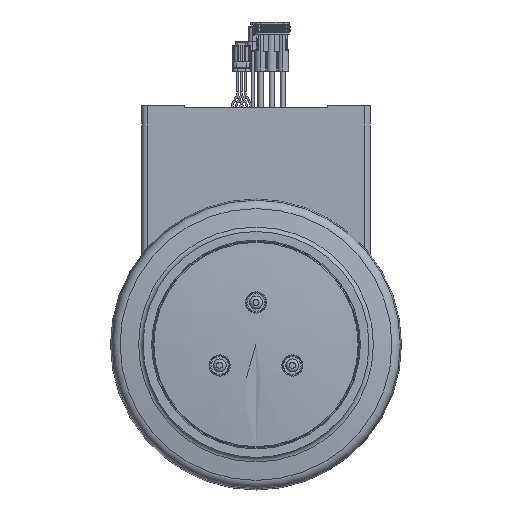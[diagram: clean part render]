
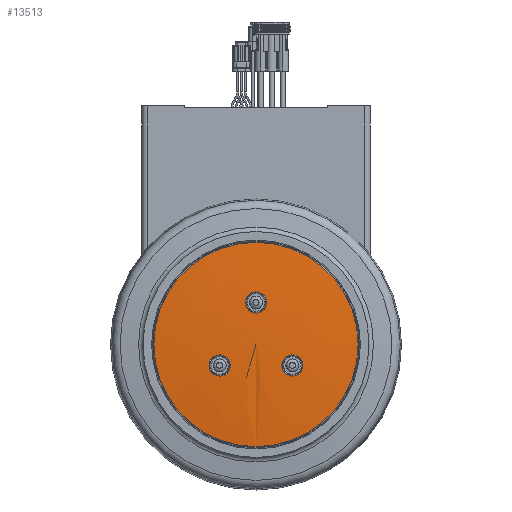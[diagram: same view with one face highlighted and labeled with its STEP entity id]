
A CAD part, front view. The second image highlights one B-rep face of the part: STEP entity #13513.
In plain terms, the highlighted free-form (B-spline) face has degree [3, 3] with [4, 7] control points.
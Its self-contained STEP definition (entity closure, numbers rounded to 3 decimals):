
#123=VERTEX_LOOP('',#33699);
#1325=(
BOUNDED_SURFACE()
B_SPLINE_SURFACE(3,3,((#91559,#91560,#91561,#91562,#91563,#91564,#91565),
(#91566,#91567,#91568,#91569,#91570,#91571,#91572),(#91573,#91574,#91575,
#91576,#91577,#91578,#91579),(#91580,#91581,#91582,#91583,#91584,#91585,
#91586)),.UNSPECIFIED.,.F.,.T.,.F.)
B_SPLINE_SURFACE_WITH_KNOTS((4,4),(1,3,3,3,1),(0.,1.),(-0.5,0.,0.5,1.,1.5),
 .UNSPECIFIED.)
GEOMETRIC_REPRESENTATION_ITEM()
RATIONAL_B_SPLINE_SURFACE(((1.,0.333,0.333,1.,0.333,
0.333,1.),(0.999,0.333,0.333,
0.999,0.333,0.333,0.999),
(0.999,0.333,0.333,0.999,
0.333,0.333,0.999),(1.,0.333,
0.333,1.,0.333,0.333,1.)))
REPRESENTATION_ITEM('')
SURFACE()
);
#3345=B_SPLINE_CURVE_WITH_KNOTS('',3,(#91499,#91500,#91501,#91502,#91503,
#91504,#91505,#91506,#91507,#91508,#91509,#91510,#91511,#91512,#91513,#91514,
#91515,#91516),.UNSPECIFIED.,.T.,.F.,(2,2,2,2,2,2,2,2,2,2,2),(-0.125,0.,
0.125,0.25,0.375,0.5,0.625,0.75,0.875,1.,1.125),.UNSPECIFIED.);
#3346=B_SPLINE_CURVE_WITH_KNOTS('',3,(#91518,#91519,#91520,#91521,#91522,
#91523,#91524,#91525,#91526,#91527,#91528,#91529,#91530,#91531,#91532,#91533,
#91534,#91535),.UNSPECIFIED.,.T.,.F.,(2,2,2,2,2,2,2,2,2,2,2),(-0.125,0.,
0.125,0.25,0.375,0.5,0.625,0.75,0.875,1.,1.125),.UNSPECIFIED.);
#3347=B_SPLINE_CURVE_WITH_KNOTS('',3,(#91537,#91538,#91539,#91540,#91541,
#91542,#91543,#91544,#91545,#91546,#91547,#91548,#91549,#91550,#91551,#91552,
#91553,#91554),.UNSPECIFIED.,.T.,.F.,(2,2,2,2,2,2,2,2,2,2,2),(-0.125,0.,
0.125,0.25,0.375,0.5,0.625,0.75,0.875,1.,1.125),.UNSPECIFIED.);
#13513=ADVANCED_FACE('',(#15534,#15535,#15536,#15537,#15538),#1325,.T.);
#15534=FACE_BOUND('',#18624,.T.);
#15535=FACE_BOUND('',#18625,.T.);
#15536=FACE_BOUND('',#18626,.T.);
#15537=FACE_BOUND('',#18627,.T.);
#15538=FACE_BOUND('',#123,.T.);
#18624=EDGE_LOOP('',(#29842));
#18625=EDGE_LOOP('',(#29843));
#18626=EDGE_LOOP('',(#29844));
#18627=EDGE_LOOP('',(#29845));
#29842=ORIENTED_EDGE('',*,*,#39401,.T.);
#29843=ORIENTED_EDGE('',*,*,#39402,.T.);
#29844=ORIENTED_EDGE('',*,*,#39403,.T.);
#29845=ORIENTED_EDGE('',*,*,#39404,.T.);
#33695=VERTEX_POINT('',#91517);
#33696=VERTEX_POINT('',#91536);
#33697=VERTEX_POINT('',#91555);
#33698=VERTEX_POINT('',#91557);
#33699=VERTEX_POINT('',#91558);
#39401=EDGE_CURVE('',#33695,#33695,#3345,.T.);
#39402=EDGE_CURVE('',#33696,#33696,#3346,.T.);
#39403=EDGE_CURVE('',#33697,#33697,#3347,.T.);
#39404=EDGE_CURVE('',#33698,#33698,#41688,.T.);
#41688=CIRCLE('',#46456,53.544);
#46456=AXIS2_PLACEMENT_3D('',#91556,#58395,#58396);
#58395=DIRECTION('',(-1.,0.,0.));
#58396=DIRECTION('',(0.,-1.,0.));
#91499=CARTESIAN_POINT('',(-24.239,19.137,4.973));
#91500=CARTESIAN_POINT('',(-24.313,17.056,2.905));
#91501=CARTESIAN_POINT('',(-24.335,16.462,1.478));
#91502=CARTESIAN_POINT('',(-24.335,16.454,-1.451));
#91503=CARTESIAN_POINT('',(-24.314,17.053,-2.89));
#91504=CARTESIAN_POINT('',(-24.24,19.098,-4.945));
#91505=CARTESIAN_POINT('',(-24.188,20.545,-5.548));
#91506=CARTESIAN_POINT('',(-24.084,23.439,-5.558));
#91507=CARTESIAN_POINT('',(-24.031,24.901,-4.957));
#91508=CARTESIAN_POINT('',(-23.956,26.955,-2.914));
#91509=CARTESIAN_POINT('',(-23.934,27.559,-1.465));
#91510=CARTESIAN_POINT('',(-23.934,27.568,1.431));
#91511=CARTESIAN_POINT('',(-23.955,26.982,2.875));
#91512=CARTESIAN_POINT('',(-24.03,24.917,4.953));
#91513=CARTESIAN_POINT('',(-24.082,23.479,5.548));
#91514=CARTESIAN_POINT('',(-24.187,20.581,5.558));
#91515=CARTESIAN_POINT('',(-24.239,19.137,4.973));
#91516=CARTESIAN_POINT('',(-24.313,17.056,2.905));
#91517=CARTESIAN_POINT('',(-24.276,18.097,3.939));
#91518=CARTESIAN_POINT('',(-23.927,-13.891,24.028));
#91519=CARTESIAN_POINT('',(-23.955,-15.968,21.953));
#91520=CARTESIAN_POINT('',(-23.989,-16.558,20.513));
#91521=CARTESIAN_POINT('',(-24.08,-16.559,17.615));
#91522=CARTESIAN_POINT('',(-24.136,-15.959,16.166));
#91523=CARTESIAN_POINT('',(-24.237,-13.914,14.115));
#91524=CARTESIAN_POINT('',(-24.282,-12.479,13.511));
#91525=CARTESIAN_POINT('',(-24.334,-9.546,13.507));
#91526=CARTESIAN_POINT('',(-24.342,-8.114,14.102));
#91527=CARTESIAN_POINT('',(-24.315,-6.048,16.165));
#91528=CARTESIAN_POINT('',(-24.281,-5.453,17.597));
#91529=CARTESIAN_POINT('',(-24.189,-5.453,20.528));
#91530=CARTESIAN_POINT('',(-24.134,-6.055,21.964));
#91531=CARTESIAN_POINT('',(-24.033,-8.102,24.012));
#91532=CARTESIAN_POINT('',(-23.988,-9.552,24.613));
#91533=CARTESIAN_POINT('',(-23.935,-12.45,24.616));
#91534=CARTESIAN_POINT('',(-23.927,-13.891,24.028));
#91535=CARTESIAN_POINT('',(-23.955,-15.968,21.953));
#91536=CARTESIAN_POINT('',(-23.941,-14.93,22.99));
#91537=CARTESIAN_POINT('',(-24.237,-13.912,-14.109));
#91538=CARTESIAN_POINT('',(-24.135,-15.979,-16.19));
#91539=CARTESIAN_POINT('',(-24.079,-16.563,-17.632));
#91540=CARTESIAN_POINT('',(-23.989,-16.553,-20.53));
#91541=CARTESIAN_POINT('',(-23.954,-15.948,-21.978));
#91542=CARTESIAN_POINT('',(-23.928,-13.893,-24.021));
#91543=CARTESIAN_POINT('',(-23.935,-12.454,-24.619));
#91544=CARTESIAN_POINT('',(-23.988,-9.523,-24.61));
#91545=CARTESIAN_POINT('',(-24.033,-8.093,-24.01));
#91546=CARTESIAN_POINT('',(-24.135,-6.037,-21.939));
#91547=CARTESIAN_POINT('',(-24.19,-5.447,-20.508));
#91548=CARTESIAN_POINT('',(-24.281,-5.458,-17.574));
#91549=CARTESIAN_POINT('',(-24.315,-6.065,-16.141));
#91550=CARTESIAN_POINT('',(-24.342,-8.123,-14.099));
#91551=CARTESIAN_POINT('',(-24.334,-9.576,-13.504));
#91552=CARTESIAN_POINT('',(-24.282,-12.473,-13.514));
#91553=CARTESIAN_POINT('',(-24.237,-13.912,-14.109));
#91554=CARTESIAN_POINT('',(-24.135,-15.979,-16.19));
#91555=CARTESIAN_POINT('',(-24.186,-14.946,-15.15));
#91556=CARTESIAN_POINT('',(-22.191,0.,0.));
#91557=CARTESIAN_POINT('',(-22.191,-53.544,0.));
#91558=CARTESIAN_POINT('',(-24.55,0.,0.));
#91559=CARTESIAN_POINT('',(-22.191,-53.544,0.));
#91560=CARTESIAN_POINT('',(-22.191,-53.544,-107.089));
#91561=CARTESIAN_POINT('',(-22.191,53.544,-107.089));
#91562=CARTESIAN_POINT('',(-22.191,53.544,0.));
#91563=CARTESIAN_POINT('',(-22.191,53.544,107.089));
#91564=CARTESIAN_POINT('',(-22.191,-53.544,107.089));
#91565=CARTESIAN_POINT('',(-22.191,-53.544,0.));
#91566=CARTESIAN_POINT('',(-23.775,-35.737,0.));
#91567=CARTESIAN_POINT('',(-23.775,-35.737,-71.475));
#91568=CARTESIAN_POINT('',(-23.775,35.737,-71.475));
#91569=CARTESIAN_POINT('',(-23.775,35.737,0.));
#91570=CARTESIAN_POINT('',(-23.775,35.737,71.475));
#91571=CARTESIAN_POINT('',(-23.775,-35.737,71.475));
#91572=CARTESIAN_POINT('',(-23.775,-35.737,0.));
#91573=CARTESIAN_POINT('',(-24.562,-17.877,0.));
#91574=CARTESIAN_POINT('',(-24.562,-17.877,-35.755));
#91575=CARTESIAN_POINT('',(-24.562,17.877,-35.755));
#91576=CARTESIAN_POINT('',(-24.562,17.877,0.));
#91577=CARTESIAN_POINT('',(-24.562,17.877,35.755));
#91578=CARTESIAN_POINT('',(-24.562,-17.877,35.755));
#91579=CARTESIAN_POINT('',(-24.562,-17.877,0.));
#91580=CARTESIAN_POINT('',(-24.55,0.,0.));
#91581=CARTESIAN_POINT('',(-24.55,0.,0.));
#91582=CARTESIAN_POINT('',(-24.55,0.,0.));
#91583=CARTESIAN_POINT('',(-24.55,0.,0.));
#91584=CARTESIAN_POINT('',(-24.55,0.,0.));
#91585=CARTESIAN_POINT('',(-24.55,0.,0.));
#91586=CARTESIAN_POINT('',(-24.55,0.,0.));
